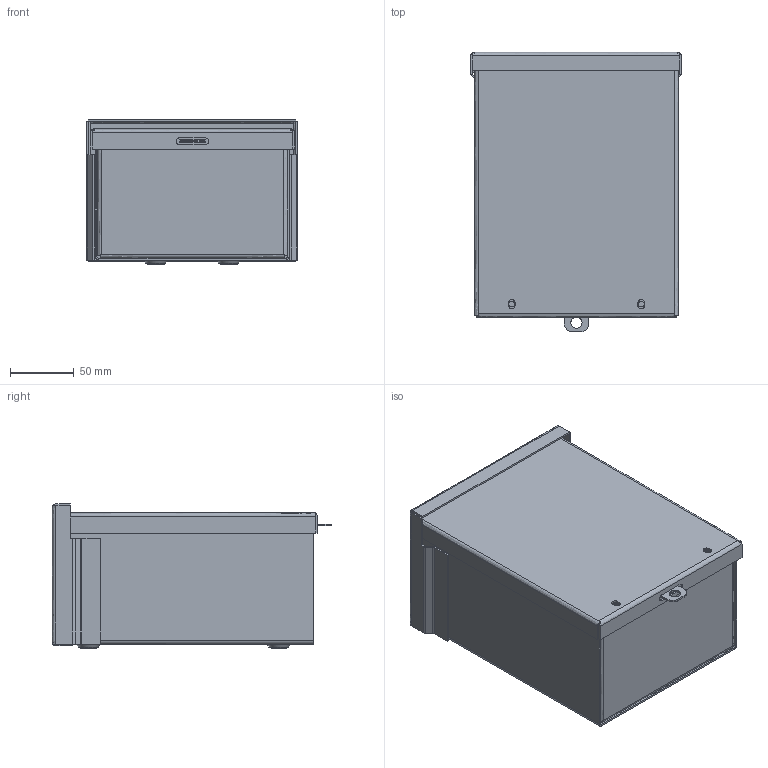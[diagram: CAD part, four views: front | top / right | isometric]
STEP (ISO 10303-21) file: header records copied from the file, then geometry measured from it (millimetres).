
FILE_DESCRIPTION((''),'2;1');
FILE_NAME('D:\scratch\ideas\a8r64nk.stp','2007-05-31T13:25:15',( 'User'),('SDRC'),'I-DEAS Master Series 9','UNIX','Yes');
FILE_SCHEMA(('AUTOMOTIVE_DESIGN { 1 0 10303 214 0 1 1 1 }'));
Length unit declared in the file: inch
Products named in the file (7): 13483; 3rsc_wmt_body_8x6x4_nk; 3rsc_top_6x4; 3rsc_bottom_6x4_nk; 3rsc_body_8x6x4; 3rsc_cover_8x6; 78124001
Assembly tree (6 placements, depth 3):
  13483
    3rsc_wmt_body_8x6x4_nk
      3rsc_top_6x4
      3rsc_bottom_6x4_nk
      3rsc_body_8x6x4
    3rsc_cover_8x6
    78124001
Bounding box: 165.1 x 219.15 x 113.03 mm (x, y, z)
Volume: 232363.7 mm3; surface area: 337947.5 mm2
Topology: 5 solids, 5 shells, 239 faces, 615 edges, 392 vertices
Faces by surface type: bspline 239
Entity records: 7574 total; most frequent: CARTESIAN_POINT 3603, ORIENTED_EDGE 1230, EDGE_CURVE 615, VERTEX_POINT 392, QUASI_UNIFORM_CURVE 308, EDGE_LOOP 273, FACE_OUTER_BOUND 239, ADVANCED_FACE 239
